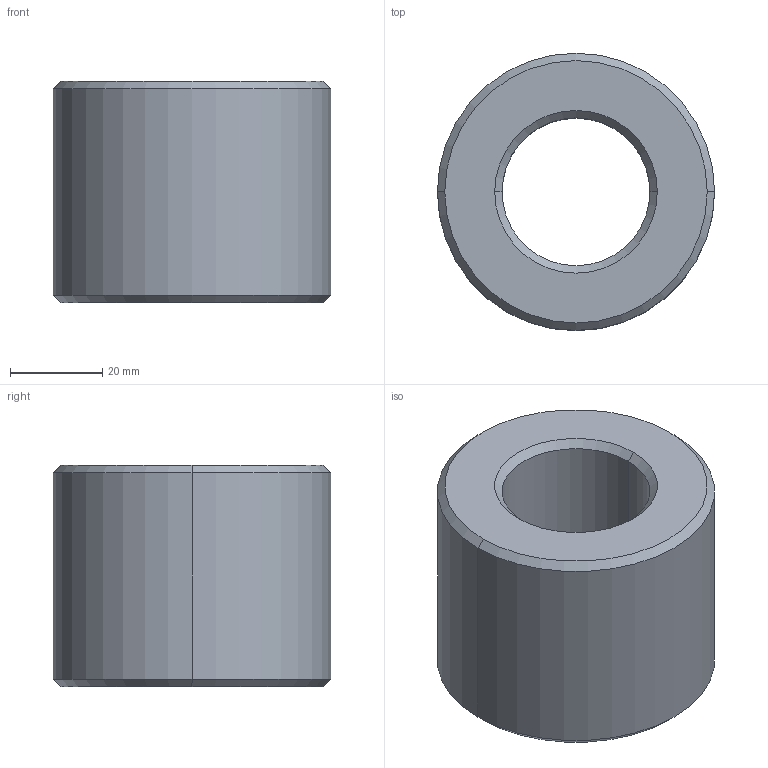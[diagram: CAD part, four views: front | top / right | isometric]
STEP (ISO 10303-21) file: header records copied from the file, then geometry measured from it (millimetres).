
FILE_DESCRIPTION (( 'STEP AP203' ), '1' );
FILE_NAME ('L1339.R32-12.step', '2024-10-24T14:11:43', ( '' ), ( '' ), 'SwSTEP 2.0', 'SolidWorks 2019', '' );
FILE_SCHEMA (( 'CONFIG_CONTROL_DESIGN' ));
Length unit declared in the file: millimetre
Products named in the file (1): L1339.R32-12
Bounding box: 60 x 60 x 48 mm (x, y, z)
Volume: 96373 mm3; surface area: 17377.9 mm2
Topology: 1 solids, 1 shells, 14 faces, 28 edges, 16 vertices
Faces by surface type: cone 8, cylinder 4, plane 2
Entity records: 445 total; most frequent: DIRECTION 74, CARTESIAN_POINT 59, ORIENTED_EDGE 56, AXIS2_PLACEMENT_3D 31, EDGE_CURVE 28, EDGE_LOOP 16, CIRCLE 16, VERTEX_POINT 16
